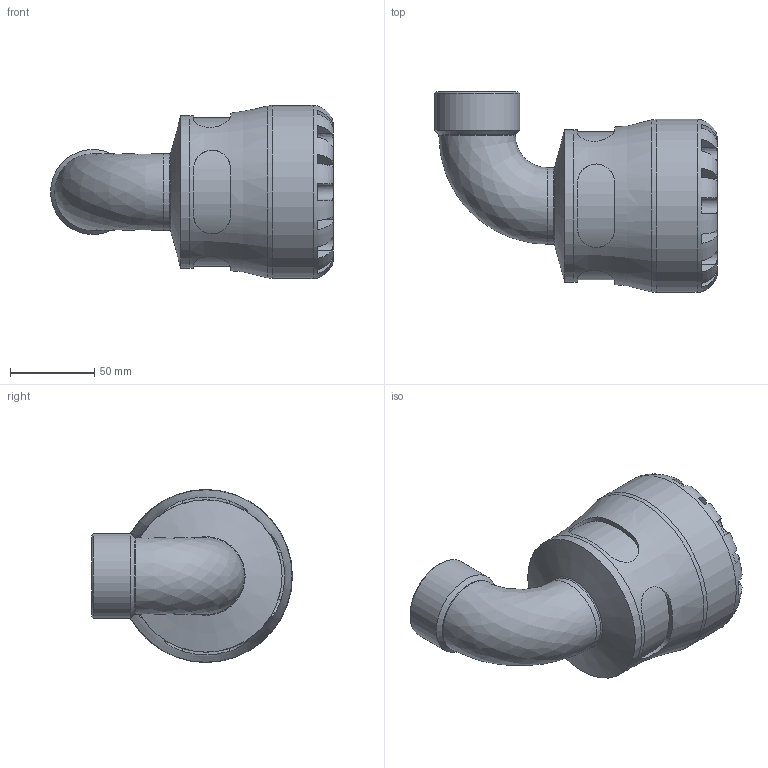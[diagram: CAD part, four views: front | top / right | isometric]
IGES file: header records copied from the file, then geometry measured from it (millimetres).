
Global section: file name: 107600063013_197600063013.ipt; native system: Autodesk Inventor 2015; preprocessor: unknown; author: KIM; date: 20170518.120410; units: millimetre
Bounding box: 168.32 x 119.5 x 103 mm (x, y, z)
Volume: 464510.5 mm3; surface area: 87043.5 mm2
Topology: 1 solids, 1 shells, 108 faces, 277 edges, 176 vertices
Faces by surface type: plane 60, revolution 28, cylinder 17, cone 3
Full cylindrical faces by diameter (mm): 45.574 x2, 50.638 x1, 90.64 x1, 103 x1
